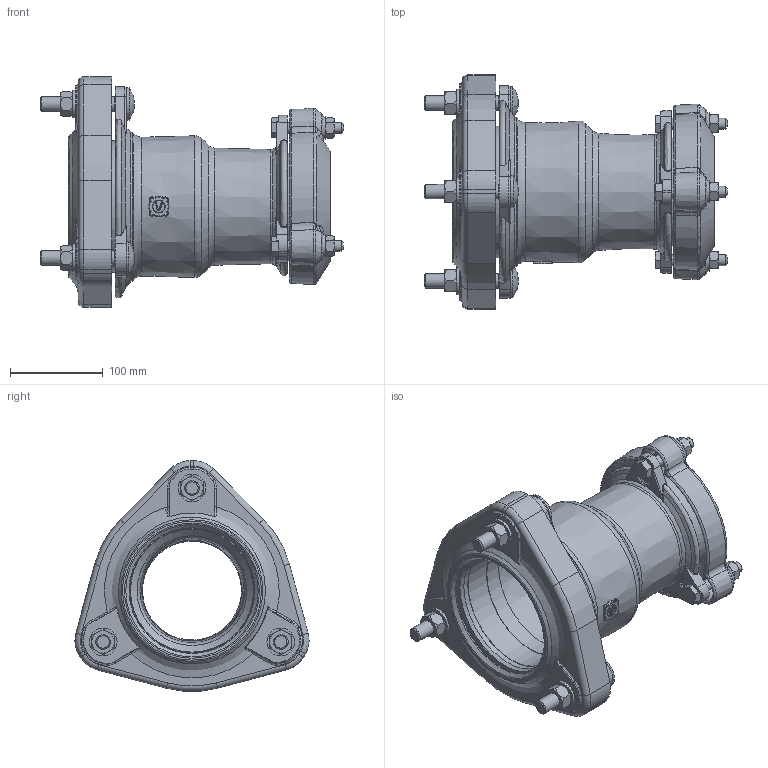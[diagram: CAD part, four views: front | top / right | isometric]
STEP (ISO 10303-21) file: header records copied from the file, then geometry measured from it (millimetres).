
FILE_DESCRIPTION((''),'2;1');
FILE_NAME('P:\Fastrack\54361_VIKING JOHNSON 3D\ULTRAGRIP\Component Parts\Components Built up\Stepped Coupling Assembly\80-100MM-UltraGrip-Stepped-Coupling-Assembly.stp','2012-05-23T09:57:50',('dcole'),(''),'Autodesk Inventor 2008','Autodesk Inventor 2008','');
FILE_SCHEMA(('AUTOMOTIVE_DESIGN { 1 0 10303 214 1 1 1 1 }'));
Length unit declared in the file: millimetre
Products named in the file (1): 80-100MM-UltraGrip-Stepped-Coupling-Assembly
Bounding box: 327 x 252.11 x 248.25 mm (x, y, z)
Volume: 1525520.9 mm3; surface area: 490424.9 mm2
Topology: 1 solids, 1 shells, 958 faces, 2501 edges, 1568 vertices
Faces by surface type: plane 262, cylinder 228, bspline 199, cone 165, torus 104
Full cylindrical faces by diameter (mm): 11.75 x3, 12 x3, 13 x1, 15.225 x3, 15.7 x6, 16 x6, 24 x3, 30 x3, 35.2 x3, 106.5 x1, 108.5 x3, 115.5 x1, 132.7 x1, 133.7 x1, 134.7 x1, 141.7 x1, 142.7 x1
Entity records: 46354 total; most frequent: CARTESIAN_POINT 23953, ORIENTED_EDGE 4638, DIRECTION 4142, EDGE_CURVE 2319, AXIS2_PLACEMENT_3D 1733, VERTEX_POINT 1506, EDGE_LOOP 1111, STYLED_ITEM 954
